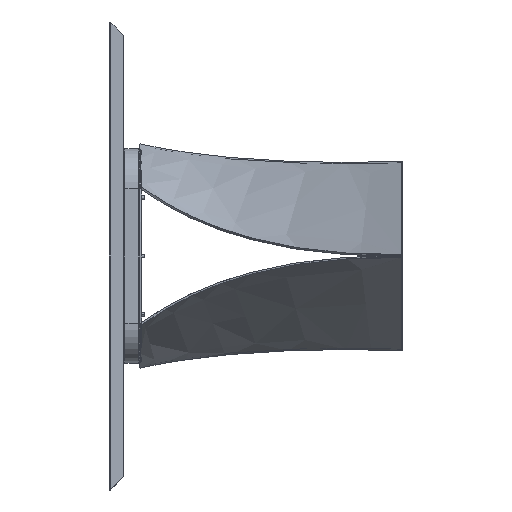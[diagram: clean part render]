
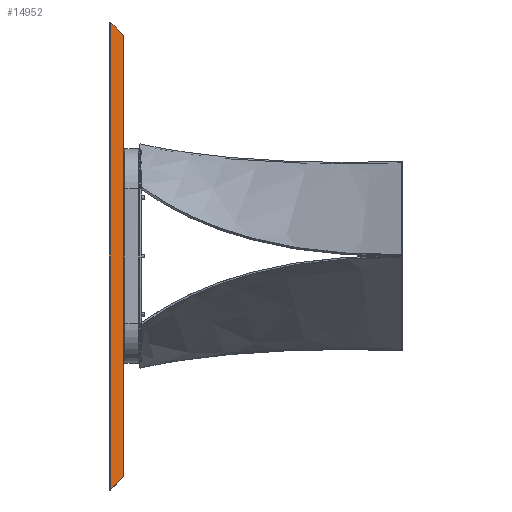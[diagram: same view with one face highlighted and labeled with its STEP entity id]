
A CAD part, left-side view. The second image highlights one B-rep face of the part: STEP entity #14952.
In plain terms, the highlighted planar face has unit normal (-0.707, -0.707, 0).
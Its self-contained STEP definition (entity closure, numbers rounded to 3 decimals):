
#101 = LINE ( 'NONE', #11865, #20660 ) ;
#281 = EDGE_CURVE ( 'NONE', #12791, #23558, #15551, .T. ) ;
#366 = EDGE_CURVE ( 'NONE', #18378, #12791, #21120, .T. ) ;
#611 = DIRECTION ( 'NONE',  ( 0., 0., 1. ) ) ;
#644 =( BOUNDED_CURVE ( )  B_SPLINE_CURVE ( 3, ( #9765, #17242, #24810, #9395 ),
 .UNSPECIFIED., .F., .F. ) 
 B_SPLINE_CURVE_WITH_KNOTS ( ( 4, 4 ),
 ( 2.356, 3.142 ),
 .UNSPECIFIED. ) 
 CURVE ( )  GEOMETRIC_REPRESENTATION_ITEM ( )  RATIONAL_B_SPLINE_CURVE ( ( 1., 0.949, 0.949, 1. ) ) 
 REPRESENTATION_ITEM ( '' )  );
#1164 = CARTESIAN_POINT ( 'NONE',  ( -1198.536, 33.536, -598.536 ) ) ;
#1590 = ORIENTED_EDGE ( 'NONE', *, *, #281, .T. ) ;
#1858 = DIRECTION ( 'NONE',  ( 0., 0., 1. ) ) ;
#2086 = FACE_OUTER_BOUND ( 'NONE', #20299, .T. ) ;
#2201 = VECTOR ( 'NONE', #13518, 1000. ) ;
#2395 =( BOUNDED_CURVE ( )  B_SPLINE_CURVE ( 3, ( #14798, #10759, #18476, #1164 ),
 .UNSPECIFIED., .F., .F. ) 
 B_SPLINE_CURVE_WITH_KNOTS ( ( 4, 4 ),
 ( 3.142, 3.927 ),
 .UNSPECIFIED. ) 
 CURVE ( )  GEOMETRIC_REPRESENTATION_ITEM ( )  RATIONAL_B_SPLINE_CURVE ( ( 1., 0.949, 0.949, 1. ) ) 
 REPRESENTATION_ITEM ( '' )  );
#2743 = CARTESIAN_POINT ( 'NONE',  ( -1200., 35., -595. ) ) ;
#3479 = VERTEX_POINT ( 'NONE', #10855 ) ;
#3632 = ORIENTED_EDGE ( 'NONE', *, *, #15449, .T. ) ;
#3869 = CARTESIAN_POINT ( 'NONE',  ( -1200., 35., -600. ) ) ;
#4757 = DIRECTION ( 'NONE',  ( 0.577, -0.577, -0.577 ) ) ;
#5329 = VECTOR ( 'NONE', #4757, 1000. ) ;
#5428 = CARTESIAN_POINT ( 'NONE',  ( -1198.536, 33.536, 598.536 ) ) ;
#6478 = EDGE_CURVE ( 'NONE', #14658, #18378, #2395, .T. ) ;
#8051 = AXIS2_PLACEMENT_3D ( 'NONE', #3869, #11456, #1858 ) ;
#8438 = ORIENTED_EDGE ( 'NONE', *, *, #366, .T. ) ;
#9342 = CARTESIAN_POINT ( 'NONE',  ( -1165.293, 0.293, 565. ) ) ;
#9395 = CARTESIAN_POINT ( 'NONE',  ( -1200., 35., 595. ) ) ;
#9765 = CARTESIAN_POINT ( 'NONE',  ( -1198.536, 33.536, 598.536 ) ) ;
#10279 = CARTESIAN_POINT ( 'NONE',  ( -1198.536, 33.536, -598.536 ) ) ;
#10759 = CARTESIAN_POINT ( 'NONE',  ( -1200., 35., -596.344 ) ) ;
#10855 = CARTESIAN_POINT ( 'NONE',  ( -1200., 35., 595. ) ) ;
#11456 = DIRECTION ( 'NONE',  ( 0.707, 0.707, 0. ) ) ;
#11865 = CARTESIAN_POINT ( 'NONE',  ( -1200., 35., -600. ) ) ;
#12791 = VERTEX_POINT ( 'NONE', #15011 ) ;
#13091 = ORIENTED_EDGE ( 'NONE', *, *, #23757, .F. ) ;
#13518 = DIRECTION ( 'NONE',  ( 0.577, -0.577, 0.577 ) ) ;
#13720 = ORIENTED_EDGE ( 'NONE', *, *, #6478, .T. ) ;
#14369 = LINE ( 'NONE', #22089, #5329 ) ;
#14658 = VERTEX_POINT ( 'NONE', #2743 ) ;
#14798 = CARTESIAN_POINT ( 'NONE',  ( -1200., 35., -595. ) ) ;
#14952 = ADVANCED_FACE ( 'NONE', ( #2086 ), #21063, .F. ) ;
#15011 = CARTESIAN_POINT ( 'NONE',  ( -1165.293, 0.293, -565.293 ) ) ;
#15449 = EDGE_CURVE ( 'NONE', #15747, #3479, #644, .T. ) ;
#15551 = LINE ( 'NONE', #9342, #20786 ) ;
#15747 = VERTEX_POINT ( 'NONE', #5428 ) ;
#17242 = CARTESIAN_POINT ( 'NONE',  ( -1199.486, 34.486, 597.585 ) ) ;
#18378 = VERTEX_POINT ( 'NONE', #10279 ) ;
#18476 = CARTESIAN_POINT ( 'NONE',  ( -1199.486, 34.486, -597.585 ) ) ;
#20299 = EDGE_LOOP ( 'NONE', ( #8438, #1590, #13091, #3632, #24294, #13720 ) ) ;
#20660 = VECTOR ( 'NONE', #611, 1000. ) ;
#20786 = VECTOR ( 'NONE', #21360, 1000. ) ;
#21063 = PLANE ( 'NONE',  #8051 ) ;
#21120 = LINE ( 'NONE', #24894, #2201 ) ;
#21360 = DIRECTION ( 'NONE',  ( 0., 0., 1. ) ) ;
#22089 = CARTESIAN_POINT ( 'NONE',  ( -800., -365., 200. ) ) ;
#23558 = VERTEX_POINT ( 'NONE', #23727 ) ;
#23606 = EDGE_CURVE ( 'NONE', #14658, #3479, #101, .T. ) ;
#23727 = CARTESIAN_POINT ( 'NONE',  ( -1165.293, 0.293, 565.293 ) ) ;
#23757 = EDGE_CURVE ( 'NONE', #15747, #23558, #14369, .T. ) ;
#24294 = ORIENTED_EDGE ( 'NONE', *, *, #23606, .F. ) ;
#24810 = CARTESIAN_POINT ( 'NONE',  ( -1200., 35., 596.344 ) ) ;
#24894 = CARTESIAN_POINT ( 'NONE',  ( -1200., 35., -600. ) ) ;
